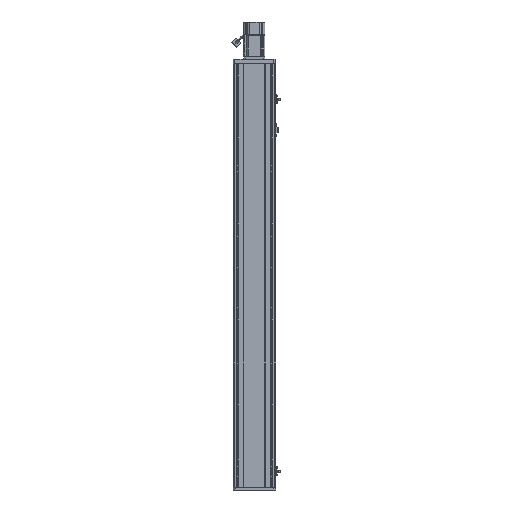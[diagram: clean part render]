
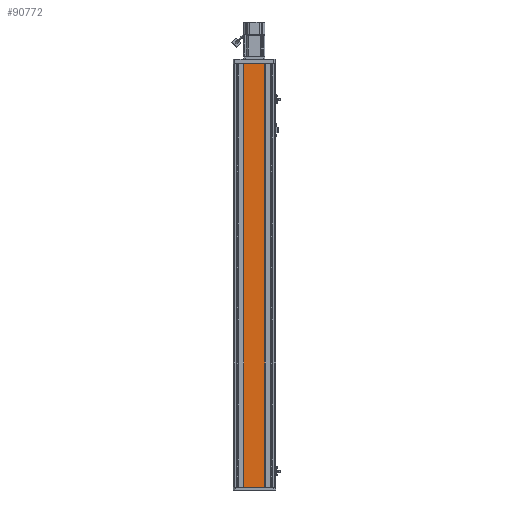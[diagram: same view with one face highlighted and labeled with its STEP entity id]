
A CAD part, front view. The second image highlights one B-rep face of the part: STEP entity #90772.
In plain terms, the highlighted planar face has unit normal (0, -1, 0).
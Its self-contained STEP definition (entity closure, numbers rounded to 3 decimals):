
#2368 = CARTESIAN_POINT ( 'NONE',  ( 30., 0., -1196.5 ) ) ;
#5905 = VERTEX_POINT ( 'NONE', #100240 ) ;
#11297 = VECTOR ( 'NONE', #94099, 1000. ) ;
#31909 = CARTESIAN_POINT ( 'NONE',  ( 30., 0., 0. ) ) ;
#32232 = LINE ( 'NONE', #67128, #53961 ) ;
#35785 = VERTEX_POINT ( 'NONE', #107465 ) ;
#38578 = CARTESIAN_POINT ( 'NONE',  ( 30., 0., 0. ) ) ;
#39596 = DIRECTION ( 'NONE',  ( 0., 0., 1. ) ) ;
#41019 = VERTEX_POINT ( 'NONE', #31909 ) ;
#44015 = ORIENTED_EDGE ( 'NONE', *, *, #114385, .T. ) ;
#44253 = VECTOR ( 'NONE', #47747, 1000. ) ;
#47747 = DIRECTION ( 'NONE',  ( 0., 0., 1. ) ) ;
#48923 = DIRECTION ( 'NONE',  ( -1., 0., 0. ) ) ;
#50234 = DIRECTION ( 'NONE',  ( -1., 0., 0. ) ) ;
#53733 = VERTEX_POINT ( 'NONE', #88764 ) ;
#53961 = VECTOR ( 'NONE', #39596, 1000. ) ;
#60153 = EDGE_LOOP ( 'NONE', ( #61315, #104286, #89743, #44015 ) ) ;
#61315 = ORIENTED_EDGE ( 'NONE', *, *, #79092, .T. ) ;
#65663 = AXIS2_PLACEMENT_3D ( 'NONE', #96089, #105884, #50234 ) ;
#67128 = CARTESIAN_POINT ( 'NONE',  ( 30., 0., -1196.5 ) ) ;
#68576 = EDGE_CURVE ( 'NONE', #35785, #53733, #102101, .T. ) ;
#79092 = EDGE_CURVE ( 'NONE', #41019, #5905, #85214, .T. ) ;
#81052 = FACE_OUTER_BOUND ( 'NONE', #60153, .T. ) ;
#85214 = LINE ( 'NONE', #38578, #11297 ) ;
#87147 = PLANE ( 'NONE',  #65663 ) ;
#88764 = CARTESIAN_POINT ( 'NONE',  ( -30., 0., -1196.5 ) ) ;
#89743 = ORIENTED_EDGE ( 'NONE', *, *, #68576, .F. ) ;
#90772 = ADVANCED_FACE ( 'NONE', ( #81052 ), #87147, .F. ) ;
#93982 = CARTESIAN_POINT ( 'NONE',  ( -30., 0., -1196.5 ) ) ;
#94099 = DIRECTION ( 'NONE',  ( -1., 0., 0. ) ) ;
#96089 = CARTESIAN_POINT ( 'NONE',  ( 30., 0., -1196.5 ) ) ;
#96521 = LINE ( 'NONE', #93982, #44253 ) ;
#99202 = VECTOR ( 'NONE', #48923, 1000. ) ;
#100240 = CARTESIAN_POINT ( 'NONE',  ( -30., 0., 0. ) ) ;
#102101 = LINE ( 'NONE', #2368, #99202 ) ;
#104286 = ORIENTED_EDGE ( 'NONE', *, *, #104733, .F. ) ;
#104733 = EDGE_CURVE ( 'NONE', #53733, #5905, #96521, .T. ) ;
#105884 = DIRECTION ( 'NONE',  ( 0., 1., 0. ) ) ;
#107465 = CARTESIAN_POINT ( 'NONE',  ( 30., 0., -1196.5 ) ) ;
#114385 = EDGE_CURVE ( 'NONE', #35785, #41019, #32232, .T. ) ;
